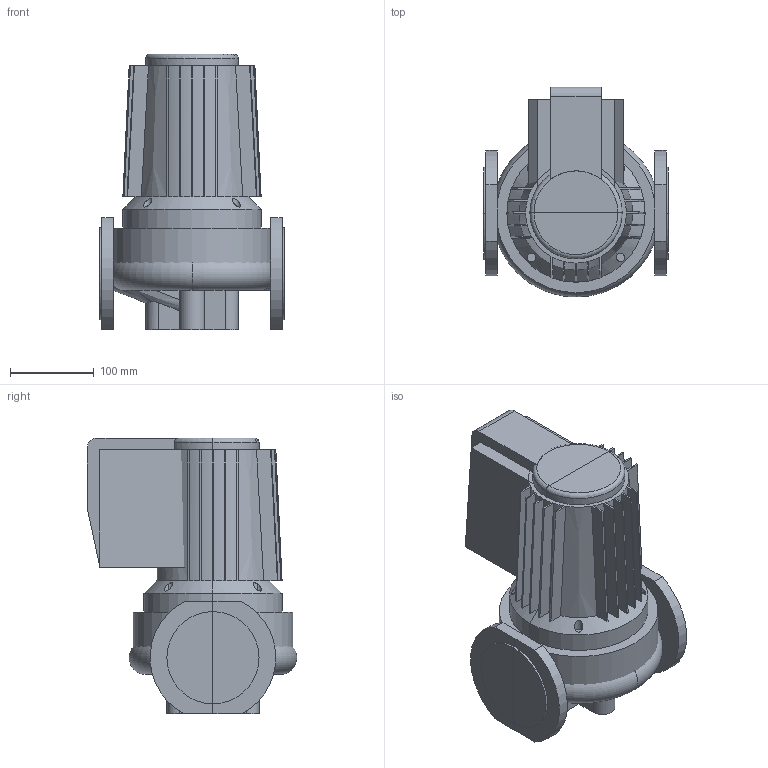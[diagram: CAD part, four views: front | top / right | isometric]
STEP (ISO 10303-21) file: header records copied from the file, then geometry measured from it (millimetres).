
FILE_DESCRIPTION(/* description */ (''),/* implementation_level */ '2;1');
FILE_NAME(/* name */ 'C:\Users\a.zyazeva\Desktop\Wellmix\TG TD WRE WRS\WRS 40-90 SF (220 В).stp',/* time_stamp */ '2024-08-28T00:13:55+03:00',/* author */ ('a.zyazeva'),/* organization */ (''),/* preprocessor_version */ 'ST-DEVELOPER v18.1',/* originating_system */ 'Autodesk Inventor 2022',/* authorisation */ '');
FILE_SCHEMA (('AUTOMOTIVE_DESIGN { 1 0 10303 214 3 1 1 }'));
Length unit declared in the file: millimetre
Products named in the file (1): WRS 40-90 SF (220 В)
Bounding box: 220 x 249.99 x 329 mm (x, y, z)
Volume: 8634648.1 mm3; surface area: 634107 mm2
Topology: 6 solids, 6 shells, 177 faces, 433 edges, 269 vertices
Faces by surface type: plane 107, cylinder 30, bspline 18, cone 17, torus 5
Entity records: 6571 total; most frequent: CARTESIAN_POINT 2596, ORIENTED_EDGE 866, DIRECTION 742, EDGE_CURVE 433, VERTEX_POINT 269, AXIS2_PLACEMENT_3D 266, LINE 210, VECTOR 210
